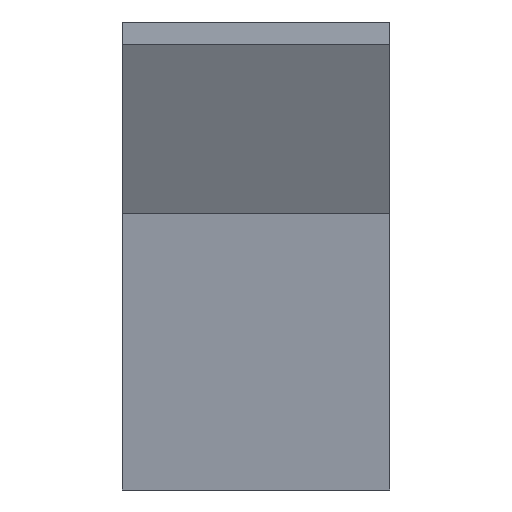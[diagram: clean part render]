
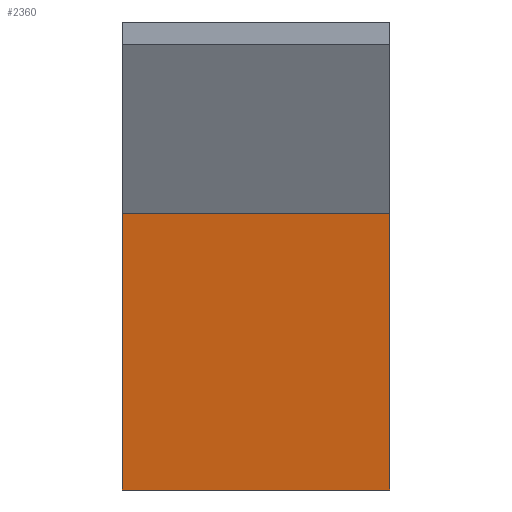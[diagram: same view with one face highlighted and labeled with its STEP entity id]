
A CAD part, front view. The second image highlights one B-rep face of the part: STEP entity #2360.
In plain terms, the highlighted planar face has unit normal (0, -0.992, -0.128).
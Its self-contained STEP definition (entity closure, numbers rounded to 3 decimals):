
#24 = VERTEX_POINT('',#25);
#25 = CARTESIAN_POINT('',(30.,-52.5,-229.04));
#32 = PLANE('',#33);
#33 = AXIS2_PLACEMENT_3D('',#34,#35,#36);
#34 = CARTESIAN_POINT('',(30.,-43.5,-229.04));
#35 = DIRECTION('',(0.,0.,1.));
#36 = DIRECTION('',(0.,-1.,0.));
#44 = PLANE('',#45);
#45 = AXIS2_PLACEMENT_3D('',#46,#47,#48);
#46 = CARTESIAN_POINT('',(30.,-48.412,-222.827));
#47 = DIRECTION('',(-1.,0.,0.));
#48 = DIRECTION('',(0.,0.,1.));
#85 = VERTEX_POINT('',#86);
#86 = CARTESIAN_POINT('',(-30.,-52.5,-229.04));
#100 = PLANE('',#101);
#101 = AXIS2_PLACEMENT_3D('',#102,#103,#104);
#102 = CARTESIAN_POINT('',(-30.,-48.412,-222.827));
#103 = DIRECTION('',(-1.,0.,0.));
#104 = DIRECTION('',(0.,0.,1.));
#112 = EDGE_CURVE('',#24,#85,#113,.T.);
#113 = SURFACE_CURVE('',#114,(#118,#125),.PCURVE_S1.);
#114 = LINE('',#115,#116);
#115 = CARTESIAN_POINT('',(30.,-52.5,-229.04));
#116 = VECTOR('',#117,1.);
#117 = DIRECTION('',(-1.,0.,0.));
#118 = PCURVE('',#32,#119);
#119 = DEFINITIONAL_REPRESENTATION('',(#120),#124);
#120 = LINE('',#121,#122);
#121 = CARTESIAN_POINT('',(9.,0.));
#122 = VECTOR('',#123,1.);
#123 = DIRECTION('',(0.,-1.));
#124 = ( GEOMETRIC_REPRESENTATION_CONTEXT(2) 
PARAMETRIC_REPRESENTATION_CONTEXT() REPRESENTATION_CONTEXT('2D SPACE',''
  ) );
#125 = PCURVE('',#126,#131);
#126 = PLANE('',#127);
#127 = AXIS2_PLACEMENT_3D('',#128,#129,#130);
#128 = CARTESIAN_POINT('',(30.,-52.5,-229.04));
#129 = DIRECTION('',(0.,0.992,0.128));
#130 = DIRECTION('',(0.,-0.128,0.992)
  );
#131 = DEFINITIONAL_REPRESENTATION('',(#132),#136);
#132 = LINE('',#133,#134);
#133 = CARTESIAN_POINT('',(0.,0.));
#134 = VECTOR('',#135,1.);
#135 = DIRECTION('',(0.,-1.));
#136 = ( GEOMETRIC_REPRESENTATION_CONTEXT(2) 
PARAMETRIC_REPRESENTATION_CONTEXT() REPRESENTATION_CONTEXT('2D SPACE',''
  ) );
#361 = EDGE_CURVE('',#362,#24,#364,.T.);
#362 = VERTEX_POINT('',#363);
#363 = CARTESIAN_POINT('',(30.,-60.5,-167.04));
#364 = SURFACE_CURVE('',#365,(#369,#376),.PCURVE_S1.);
#365 = LINE('',#366,#367);
#366 = CARTESIAN_POINT('',(30.,-60.5,-167.04));
#367 = VECTOR('',#368,1.);
#368 = DIRECTION('',(0.,0.128,-0.992));
#369 = PCURVE('',#44,#370);
#370 = DEFINITIONAL_REPRESENTATION('',(#371),#375);
#371 = LINE('',#372,#373);
#372 = CARTESIAN_POINT('',(55.787,-12.088));
#373 = VECTOR('',#374,1.);
#374 = DIRECTION('',(-0.992,0.128));
#375 = ( GEOMETRIC_REPRESENTATION_CONTEXT(2) 
PARAMETRIC_REPRESENTATION_CONTEXT() REPRESENTATION_CONTEXT('2D SPACE',''
  ) );
#376 = PCURVE('',#126,#377);
#377 = DEFINITIONAL_REPRESENTATION('',(#378),#382);
#378 = LINE('',#379,#380);
#379 = CARTESIAN_POINT('',(62.514,0.));
#380 = VECTOR('',#381,1.);
#381 = DIRECTION('',(-1.,0.));
#382 = ( GEOMETRIC_REPRESENTATION_CONTEXT(2) 
PARAMETRIC_REPRESENTATION_CONTEXT() REPRESENTATION_CONTEXT('2D SPACE',''
  ) );
#400 = PLANE('',#401);
#401 = AXIS2_PLACEMENT_3D('',#402,#403,#404);
#402 = CARTESIAN_POINT('',(30.,-60.5,-167.04));
#403 = DIRECTION('',(0.,0.875,0.484));
#404 = DIRECTION('',(0.,-0.484,0.875)
  );
#1432 = EDGE_CURVE('',#85,#1433,#1435,.T.);
#1433 = VERTEX_POINT('',#1434);
#1434 = CARTESIAN_POINT('',(-30.,-60.5,-167.04));
#1435 = SURFACE_CURVE('',#1436,(#1440,#1447),.PCURVE_S1.);
#1436 = LINE('',#1437,#1438);
#1437 = CARTESIAN_POINT('',(-30.,-52.5,-229.04));
#1438 = VECTOR('',#1439,1.);
#1439 = DIRECTION('',(0.,-0.128,0.992)
  );
#1440 = PCURVE('',#100,#1441);
#1441 = DEFINITIONAL_REPRESENTATION('',(#1442),#1446);
#1442 = LINE('',#1443,#1444);
#1443 = CARTESIAN_POINT('',(-6.213,-4.088));
#1444 = VECTOR('',#1445,1.);
#1445 = DIRECTION('',(0.992,-0.128));
#1446 = ( GEOMETRIC_REPRESENTATION_CONTEXT(2) 
PARAMETRIC_REPRESENTATION_CONTEXT() REPRESENTATION_CONTEXT('2D SPACE',''
  ) );
#1447 = PCURVE('',#126,#1448);
#1448 = DEFINITIONAL_REPRESENTATION('',(#1449),#1453);
#1449 = LINE('',#1450,#1451);
#1450 = CARTESIAN_POINT('',(0.,-60.));
#1451 = VECTOR('',#1452,1.);
#1452 = DIRECTION('',(1.,0.));
#1453 = ( GEOMETRIC_REPRESENTATION_CONTEXT(2) 
PARAMETRIC_REPRESENTATION_CONTEXT() REPRESENTATION_CONTEXT('2D SPACE',''
  ) );
#2360 = ADVANCED_FACE('',(#2361),#126,.F.);
#2361 = FACE_BOUND('',#2362,.F.);
#2362 = EDGE_LOOP('',(#2363,#2364,#2365,#2386));
#2363 = ORIENTED_EDGE('',*,*,#112,.T.);
#2364 = ORIENTED_EDGE('',*,*,#1432,.T.);
#2365 = ORIENTED_EDGE('',*,*,#2366,.F.);
#2366 = EDGE_CURVE('',#362,#1433,#2367,.T.);
#2367 = SURFACE_CURVE('',#2368,(#2372,#2379),.PCURVE_S1.);
#2368 = LINE('',#2369,#2370);
#2369 = CARTESIAN_POINT('',(30.,-60.5,-167.04));
#2370 = VECTOR('',#2371,1.);
#2371 = DIRECTION('',(-1.,0.,0.));
#2372 = PCURVE('',#126,#2373);
#2373 = DEFINITIONAL_REPRESENTATION('',(#2374),#2378);
#2374 = LINE('',#2375,#2376);
#2375 = CARTESIAN_POINT('',(62.514,0.));
#2376 = VECTOR('',#2377,1.);
#2377 = DIRECTION('',(0.,-1.));
#2378 = ( GEOMETRIC_REPRESENTATION_CONTEXT(2) 
PARAMETRIC_REPRESENTATION_CONTEXT() REPRESENTATION_CONTEXT('2D SPACE',''
  ) );
#2379 = PCURVE('',#400,#2380);
#2380 = DEFINITIONAL_REPRESENTATION('',(#2381),#2385);
#2381 = LINE('',#2382,#2383);
#2382 = CARTESIAN_POINT('',(0.,0.));
#2383 = VECTOR('',#2384,1.);
#2384 = DIRECTION('',(0.,-1.));
#2385 = ( GEOMETRIC_REPRESENTATION_CONTEXT(2) 
PARAMETRIC_REPRESENTATION_CONTEXT() REPRESENTATION_CONTEXT('2D SPACE',''
  ) );
#2386 = ORIENTED_EDGE('',*,*,#361,.T.);
